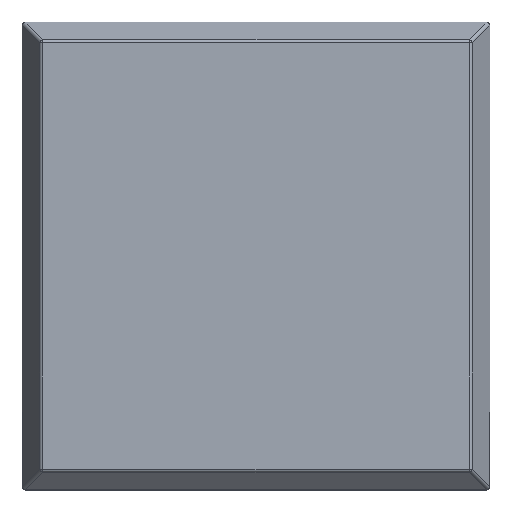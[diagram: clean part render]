
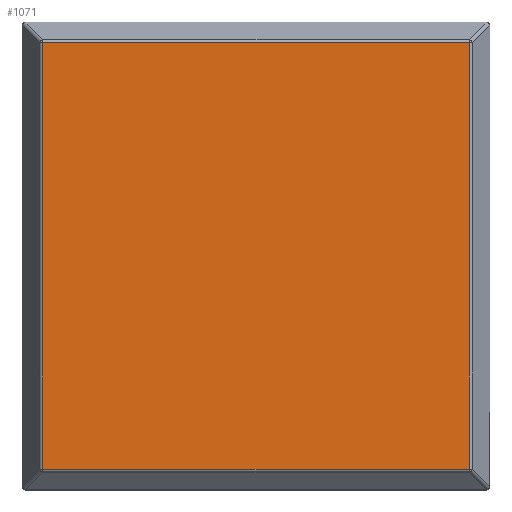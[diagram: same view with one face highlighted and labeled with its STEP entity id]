
A CAD part, top view. The second image highlights one B-rep face of the part: STEP entity #1071.
In plain terms, the highlighted planar face has unit normal (0, 0, 1).
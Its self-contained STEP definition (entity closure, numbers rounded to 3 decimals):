
#1071=ADVANCED_FACE('',(#3067),#3069,.T.);
#3067=FACE_BOUND('',#3068,.T.);
#3068=EDGE_LOOP('',(#7783,#7784,#7785,#7786));
#3069=PLANE('',#3070);
#3070=AXIS2_PLACEMENT_3D('',#3071,#3072,#3073);
#3071=CARTESIAN_POINT('',(0.,0.,0.));
#3072=DIRECTION('',(0.,0.,1.));
#3073=DIRECTION('',(0.,1.,0.));
#7783=ORIENTED_EDGE('',*,*,#8467,.T.);
#7784=ORIENTED_EDGE('',*,*,#8463,.T.);
#7785=ORIENTED_EDGE('',*,*,#8472,.T.);
#7786=ORIENTED_EDGE('',*,*,#8470,.T.);
#8463=EDGE_CURVE('',#9183,#9180,#9184,.T.);
#8467=EDGE_CURVE('',#9187,#9183,#9189,.T.);
#8470=EDGE_CURVE('',#9191,#9187,#9193,.T.);
#8472=EDGE_CURVE('',#9180,#9191,#9195,.T.);
#9180=VERTEX_POINT('',#11034);
#9183=VERTEX_POINT('',#11043);
#9184=LINE('',#11044,#11045);
#9187=VERTEX_POINT('',#11055);
#9189=LINE('',#11060,#11061);
#9191=VERTEX_POINT('',#11067);
#9193=LINE('',#11072,#11073);
#9195=LINE('',#11079,#11080);
#11034=CARTESIAN_POINT('',(-227.77,227.77,0.));
#11043=CARTESIAN_POINT('',(227.77,227.77,0.));
#11044=CARTESIAN_POINT('',(227.77,227.77,0.));
#11045=VECTOR('',#11046,1.);
#11046=DIRECTION('',(-1.,0.,0.));
#11055=CARTESIAN_POINT('',(227.77,-227.77,0.));
#11060=CARTESIAN_POINT('',(227.77,-227.77,0.));
#11061=VECTOR('',#11062,1.);
#11062=DIRECTION('',(0.,1.,0.));
#11067=CARTESIAN_POINT('',(-227.77,-227.77,0.));
#11072=CARTESIAN_POINT('',(-227.77,-227.77,0.));
#11073=VECTOR('',#11074,1.);
#11074=DIRECTION('',(1.,0.,0.));
#11079=CARTESIAN_POINT('',(-227.77,227.77,0.));
#11080=VECTOR('',#11081,1.);
#11081=DIRECTION('',(0.,-1.,0.));
